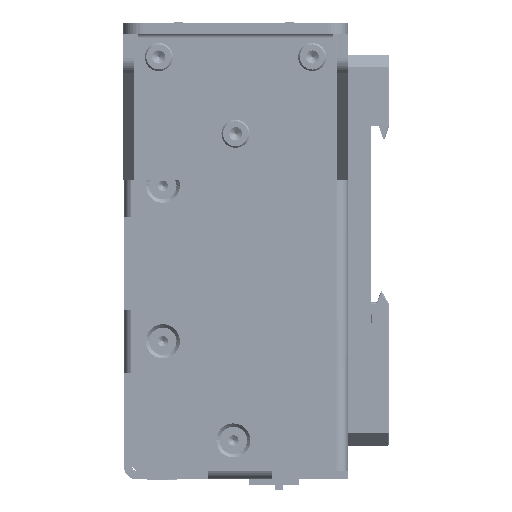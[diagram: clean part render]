
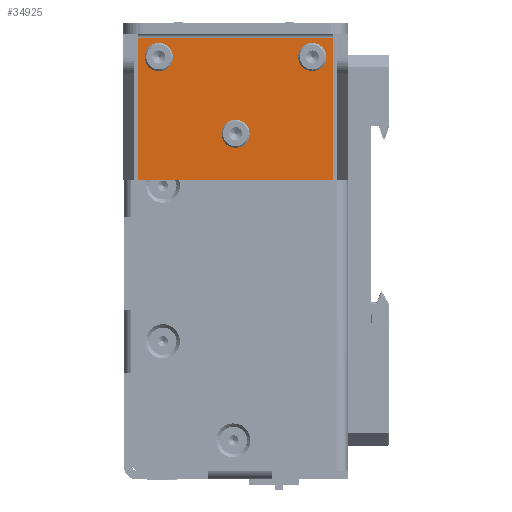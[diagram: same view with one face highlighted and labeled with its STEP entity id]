
A CAD part, left-side view. The second image highlights one B-rep face of the part: STEP entity #34925.
In plain terms, the highlighted planar face has unit normal (-1, 0, 0).
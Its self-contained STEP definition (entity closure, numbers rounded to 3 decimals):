
#8493 = VECTOR ( 'NONE', #555028, 1000. ) ;
#9592 = AXIS2_PLACEMENT_3D ( 'NONE', #406611, #319002, #275251 ) ;
#15328 = CARTESIAN_POINT ( 'NONE',  ( -165.6, 26.085, 26.826 ) ) ;
#19881 = CARTESIAN_POINT ( 'NONE',  ( -165.6, 6.998, 17.848 ) ) ;
#21563 = CARTESIAN_POINT ( 'NONE',  ( -165.6, 45.172, 17.848 ) ) ;
#22766 = VECTOR ( 'NONE', #346940, 1000. ) ;
#31564 = CARTESIAN_POINT ( 'NONE',  ( -165.6, 6.998, 17.848 ) ) ;
#34925 = ADVANCED_FACE ( 'NONE', ( #371774, #100126, #174426, #276077 ), #255726, .T. ) ;
#42325 = LINE ( 'NONE', #31564, #8493 ) ;
#43357 = CARTESIAN_POINT ( 'NONE',  ( -165.6, 26.085, 26.826 ) ) ;
#48917 = EDGE_CURVE ( 'NONE', #170677, #138015, #310211, .T. ) ;
#62242 = CIRCLE ( 'NONE', #294434, 1.6 ) ;
#71367 = CARTESIAN_POINT ( 'NONE',  ( -165.6, 41.085, 43.426 ) ) ;
#72609 = CARTESIAN_POINT ( 'NONE',  ( -165.6, 11.085, 41.826 ) ) ;
#84129 = VECTOR ( 'NONE', #378156, 1000. ) ;
#87426 = DIRECTION ( 'NONE',  ( -1., 0., 0. ) ) ;
#95834 = CARTESIAN_POINT ( 'NONE',  ( -165.6, 45.172, 17.848 ) ) ;
#100126 = FACE_BOUND ( 'NONE', #508807, .T. ) ;
#106157 = ORIENTED_EDGE ( 'NONE', *, *, #176165, .F. ) ;
#116394 = DIRECTION ( 'NONE',  ( -1., 0., 0. ) ) ;
#122537 = DIRECTION ( 'NONE',  ( -1., 0., 0. ) ) ;
#123498 = VERTEX_POINT ( 'NONE', #260722 ) ;
#126250 = DIRECTION ( 'NONE',  ( 0., 0., 1. ) ) ;
#129106 = DIRECTION ( 'NONE',  ( -1., 0., 0. ) ) ;
#138015 = VERTEX_POINT ( 'NONE', #95834 ) ;
#144177 = CARTESIAN_POINT ( 'NONE',  ( -165.6, 41.085, 40.226 ) ) ;
#151866 = EDGE_CURVE ( 'NONE', #541001, #468588, #473170, .T. ) ;
#156187 = DIRECTION ( 'NONE',  ( 0., 0., 1. ) ) ;
#162198 = AXIS2_PLACEMENT_3D ( 'NONE', #15328, #190549, #156187 ) ;
#169851 = CARTESIAN_POINT ( 'NONE',  ( -165.6, 26.085, 28.426 ) ) ;
#170677 = VERTEX_POINT ( 'NONE', #19881 ) ;
#171076 = ORIENTED_EDGE ( 'NONE', *, *, #536722, .F. ) ;
#174426 = FACE_BOUND ( 'NONE', #294913, .T. ) ;
#176165 = EDGE_CURVE ( 'NONE', #138015, #123498, #275397, .T. ) ;
#177397 = CARTESIAN_POINT ( 'NONE',  ( -165.6, 45.172, 46.408 ) ) ;
#190549 = DIRECTION ( 'NONE',  ( -1., 0., 0. ) ) ;
#200090 = LINE ( 'NONE', #376288, #84129 ) ;
#201587 = ORIENTED_EDGE ( 'NONE', *, *, #561861, .F. ) ;
#204320 = VERTEX_POINT ( 'NONE', #71367 ) ;
#222182 = ORIENTED_EDGE ( 'NONE', *, *, #356499, .F. ) ;
#225590 = AXIS2_PLACEMENT_3D ( 'NONE', #293900, #122537, #126250 ) ;
#226429 = VERTEX_POINT ( 'NONE', #363001 ) ;
#231545 = VERTEX_POINT ( 'NONE', #144177 ) ;
#241614 = AXIS2_PLACEMENT_3D ( 'NONE', #428317, #432036, #388343 ) ;
#243174 = ORIENTED_EDGE ( 'NONE', *, *, #522484, .F. ) ;
#244050 = DIRECTION ( 'NONE',  ( 0., 0., 1. ) ) ;
#255726 = PLANE ( 'NONE',  #225590 ) ;
#259547 = CARTESIAN_POINT ( 'NONE',  ( -165.6, 26.085, 25.226 ) ) ;
#260722 = CARTESIAN_POINT ( 'NONE',  ( -165.6, 45.172, 45.595 ) ) ;
#269011 = AXIS2_PLACEMENT_3D ( 'NONE', #72609, #116394, #244050 ) ;
#270622 = EDGE_CURVE ( 'NONE', #123498, #226429, #200090, .T. ) ;
#275251 = DIRECTION ( 'NONE',  ( 0., 0., 1. ) ) ;
#275397 = LINE ( 'NONE', #177397, #22766 ) ;
#276077 = FACE_OUTER_BOUND ( 'NONE', #521177, .T. ) ;
#280063 = CIRCLE ( 'NONE', #374991, 1.6 ) ;
#281875 = CARTESIAN_POINT ( 'NONE',  ( -165.6, 11.085, 43.426 ) ) ;
#293900 = CARTESIAN_POINT ( 'NONE',  ( -165.6, 45.172, 17.848 ) ) ;
#294434 = AXIS2_PLACEMENT_3D ( 'NONE', #477575, #87426, #435765 ) ;
#294913 = EDGE_LOOP ( 'NONE', ( #171076, #396124 ) ) ;
#310211 = LINE ( 'NONE', #21563, #331031 ) ;
#312531 = ORIENTED_EDGE ( 'NONE', *, *, #322599, .F. ) ;
#319002 = DIRECTION ( 'NONE',  ( -1., 0., 0. ) ) ;
#319103 = CIRCLE ( 'NONE', #9592, 1.6 ) ;
#322599 = EDGE_CURVE ( 'NONE', #226429, #170677, #42325, .T. ) ;
#324193 = CIRCLE ( 'NONE', #241614, 1.6 ) ;
#331031 = VECTOR ( 'NONE', #371921, 1000. ) ;
#334605 = EDGE_CURVE ( 'NONE', #231545, #204320, #324193, .T. ) ;
#336299 = ORIENTED_EDGE ( 'NONE', *, *, #48917, .F. ) ;
#346940 = DIRECTION ( 'NONE',  ( 0., 0., 1. ) ) ;
#356499 = EDGE_CURVE ( 'NONE', #495898, #540994, #280063, .T. ) ;
#363001 = CARTESIAN_POINT ( 'NONE',  ( -165.6, 6.998, 45.595 ) ) ;
#371774 = FACE_BOUND ( 'NONE', #520960, .T. ) ;
#371921 = DIRECTION ( 'NONE',  ( 0., 1., 0. ) ) ;
#374991 = AXIS2_PLACEMENT_3D ( 'NONE', #43357, #129106, #437385 ) ;
#376288 = CARTESIAN_POINT ( 'NONE',  ( -165.6, 45.172, 45.595 ) ) ;
#378156 = DIRECTION ( 'NONE',  ( 0., -1., 0. ) ) ;
#388343 = DIRECTION ( 'NONE',  ( 0., 0., 1. ) ) ;
#394429 = CARTESIAN_POINT ( 'NONE',  ( -165.6, 11.085, 40.226 ) ) ;
#396124 = ORIENTED_EDGE ( 'NONE', *, *, #151866, .F. ) ;
#406611 = CARTESIAN_POINT ( 'NONE',  ( -165.6, 11.085, 41.826 ) ) ;
#418430 = ORIENTED_EDGE ( 'NONE', *, *, #334605, .F. ) ;
#428317 = CARTESIAN_POINT ( 'NONE',  ( -165.6, 41.085, 41.826 ) ) ;
#432036 = DIRECTION ( 'NONE',  ( -1., 0., 0. ) ) ;
#435765 = DIRECTION ( 'NONE',  ( 0., 0., 1. ) ) ;
#437385 = DIRECTION ( 'NONE',  ( 0., 0., 1. ) ) ;
#448691 = CIRCLE ( 'NONE', #162198, 1.6 ) ;
#468588 = VERTEX_POINT ( 'NONE', #281875 ) ;
#473170 = CIRCLE ( 'NONE', #269011, 1.6 ) ;
#477575 = CARTESIAN_POINT ( 'NONE',  ( -165.6, 41.085, 41.826 ) ) ;
#495898 = VERTEX_POINT ( 'NONE', #259547 ) ;
#508807 = EDGE_LOOP ( 'NONE', ( #201587, #418430 ) ) ;
#520960 = EDGE_LOOP ( 'NONE', ( #243174, #222182 ) ) ;
#521177 = EDGE_LOOP ( 'NONE', ( #312531, #523161, #106157, #336299 ) ) ;
#522484 = EDGE_CURVE ( 'NONE', #540994, #495898, #448691, .T. ) ;
#523161 = ORIENTED_EDGE ( 'NONE', *, *, #270622, .F. ) ;
#536722 = EDGE_CURVE ( 'NONE', #468588, #541001, #319103, .T. ) ;
#540994 = VERTEX_POINT ( 'NONE', #169851 ) ;
#541001 = VERTEX_POINT ( 'NONE', #394429 ) ;
#555028 = DIRECTION ( 'NONE',  ( 0., 0., -1. ) ) ;
#561861 = EDGE_CURVE ( 'NONE', #204320, #231545, #62242, .T. ) ;
